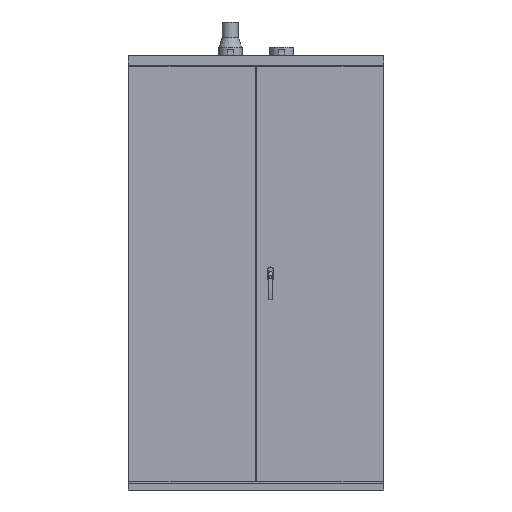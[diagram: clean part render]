
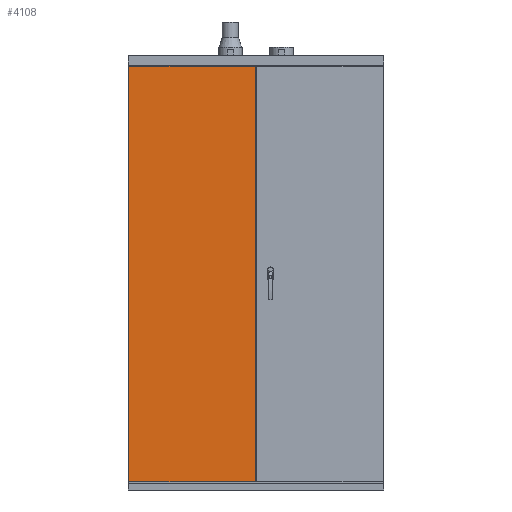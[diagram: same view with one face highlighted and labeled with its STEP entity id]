
A CAD part, front view. The second image highlights one B-rep face of the part: STEP entity #4108.
In plain terms, the highlighted planar face has unit normal (0, -1, 0).
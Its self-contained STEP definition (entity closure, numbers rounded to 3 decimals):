
#271=ORIENTED_EDGE('',*,*,#1093,.T.);
#272=ORIENTED_EDGE('',*,*,#1094,.T.);
#273=ORIENTED_EDGE('',*,*,#1095,.T.);
#274=ORIENTED_EDGE('',*,*,#1096,.T.);
#1093=EDGE_CURVE('',#1503,#1504,#1763,.T.);
#1094=EDGE_CURVE('',#1504,#1505,#1764,.T.);
#1095=EDGE_CURVE('',#1505,#1506,#1765,.T.);
#1096=EDGE_CURVE('',#1506,#1503,#1766,.T.);
#1503=VERTEX_POINT('',#5613);
#1504=VERTEX_POINT('',#5614);
#1505=VERTEX_POINT('',#5616);
#1506=VERTEX_POINT('',#5618);
#1763=LINE('',#5612,#2108);
#1764=LINE('',#5615,#2109);
#1765=LINE('',#5617,#2110);
#1766=LINE('',#5619,#2111);
#2108=VECTOR('',#4668,1000.);
#2109=VECTOR('',#4669,1000.);
#2110=VECTOR('',#4670,1000.);
#2111=VECTOR('',#4671,1000.);
#2354=EDGE_LOOP('',(#271,#272,#273,#274));
#2561=FACE_BOUND('',#2354,.T.);
#2749=PLANE('',#4297);
#4108=ADVANCED_FACE('',(#2561),#2749,.F.);
#4297=AXIS2_PLACEMENT_3D('',#5611,#4666,#4667);
#4666=DIRECTION('',(0.,1.,0.));
#4667=DIRECTION('',(0.,0.,1.));
#4668=DIRECTION('',(0.,0.,1.));
#4669=DIRECTION('',(-1.,0.,0.));
#4670=DIRECTION('',(0.,0.,-1.));
#4671=DIRECTION('',(1.,0.,0.));
#5611=CARTESIAN_POINT('',(300.,0.,2030.));
#5612=CARTESIAN_POINT('',(595.,0.,38.3));
#5613=CARTESIAN_POINT('',(595.,0.,38.3));
#5614=CARTESIAN_POINT('',(595.,0.,1979.3));
#5615=CARTESIAN_POINT('',(1195.,0.,1979.3));
#5616=CARTESIAN_POINT('',(3.,0.,1979.3));
#5617=CARTESIAN_POINT('',(3.,0.,1979.3));
#5618=CARTESIAN_POINT('',(3.,0.,38.3));
#5619=CARTESIAN_POINT('',(300.,0.,38.3));
